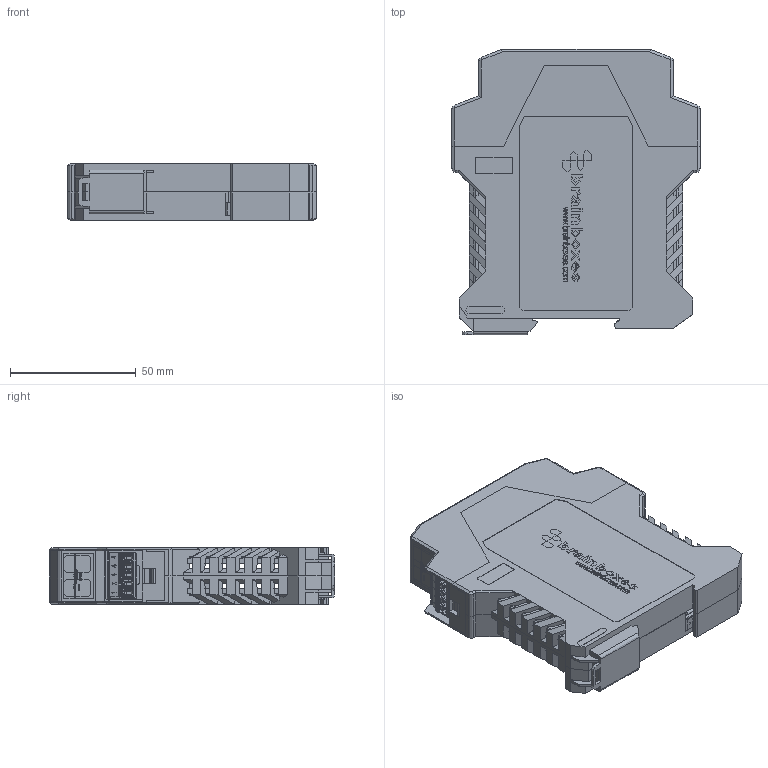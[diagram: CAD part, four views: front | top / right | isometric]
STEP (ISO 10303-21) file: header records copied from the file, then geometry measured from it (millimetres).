
FILE_DESCRIPTION(('STEP AP214'),'1');
FILE_NAME('ES-551 Cased 3D Step.step','2020-12-23T13:07:07',(' '),(' '),'Spatial InterOp 3D','XD3DPlugin XRACreate',' ');
FILE_SCHEMA(('automotive_design'));
Length unit declared in the file: millimetre
Products named in the file (56): Submodel-Input_S\50HEA4X2.xtd; 50HEA4X2; Submodel-50HEA4X2_part_simplified_H100MIL2X4; DesignRootModel; Submodel-Input_S\50HEA4X1_0.xtd; 50HEA4X1_0; Submodel-50HEA4X1_part_simplified_H100MIL1X4; Submodel-Input_S\SMD_ELEC_D.xtd; SMD_ELEC_D; Submodel-7547UF50V_part_simplified_SMD_ELEC_D; Submodel-Input_S\00MAGJACKILED.xtd; 00MAGJACKILED; Submodel-00MAGJACKILED_part_simplified_MAGJACK_LEDS; Submodel-Input_S\10NKE0303SC.xtd; 10NKE0303SC; Submodel-10NKE0303SC_part_simplified_SIP4; Submodel-Input_S\82HEA3MM5TBX5_R_GREY_0.xtd; 82HEA3MM5TBX5_R_GREY_0; Submodel-82HEA3MM5TBX5_R_YELLOW_part_simplified_TBX5_RIGHT; Submodel-Input_S\82HEA3MM5TBX5_L_BLACK.xtd; 82HEA3MM5TBX5_L_BLACK; Submodel-82HEA3MM5TBX5_L_BLACK_part_simplified_TBX5_LEFT; Submodel-Input_S\6610UH5A5.xtd; 6610UH5A5; Submodel-6610UH5A5_part_simplified_SRR1260; Submodel-Input_S\40SMTBUTTON_0.xtd; 40SMTBUTTON_0; Submodel-40SMTBUTTON_part_simplified_SMTBUTTON; Submodel-Input_S\SMC.xtd; SMC; Submodel-55TZ1K5SMC36V_part_simplified_SMC; uid__9223372036854781195; Submodel-AssyDefn_101; BrainboxesLogo.step; Submodel-AssyDefn_100; EDCase2Way.sat; Submodel-AssyDefn_99; 82PLUG3MM5_X5_1_5_BLCK.sat; Submodel-AssyDefn_98; 82BLANKFILLER.sat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
Assembly tree (62 placements, depth 5):
  ES-551 Cased 3D Step
    DesignRootModel
      Submodel-50HEA4X2_part_simplified_H100MIL2X4  x2
        Submodel-Input_S\50HEA4X2.xtd
          50HEA4X2
      Submodel-50HEA4X1_part_simplified_H100MIL1X4
        Submodel-Input_S\50HEA4X1_0.xtd
          50HEA4X1_0
      Submodel-7547UF50V_part_simplified_SMD_ELEC_D
        Submodel-Input_S\SMD_ELEC_D.xtd
          SMD_ELEC_D
      Submodel-00MAGJACKILED_part_simplified_MAGJACK_LEDS
        Submodel-Input_S\00MAGJACKILED.xtd
          00MAGJACKILED
      Submodel-10NKE0303SC_part_simplified_SIP4
        Submodel-Input_S\10NKE0303SC.xtd
          10NKE0303SC
      Submodel-82HEA3MM5TBX5_R_YELLOW_part_simplified_TBX5_RIGHT
        Submodel-Input_S\82HEA3MM5TBX5_R_GREY_0.xtd
          82HEA3MM5TBX5_R_GREY_0
      Submodel-82HEA3MM5TBX5_L_BLACK_part_simplified_TBX5_LEFT
        Submodel-Input_S\82HEA3MM5TBX5_L_BLACK.xtd
          82HEA3MM5TBX5_L_BLACK
      Submodel-6610UH5A5_part_simplified_SRR1260
        Submodel-Input_S\6610UH5A5.xtd
          6610UH5A5
      Submodel-40SMTBUTTON_part_simplified_SMTBUTTON
        Submodel-Input_S\40SMTBUTTON_0.xtd
          40SMTBUTTON_0
      Submodel-55TZ1K5SMC36V_part_simplified_SMC  x3
        Submodel-Input_S\SMC.xtd
          SMC
      uid__9223372036854781195
      Submodel-AssyDefn_101  x2
        BrainboxesLogo.step
      Submodel-AssyDefn_100
        EDCase2Way.sat
      Submodel-AssyDefn_99  x2
        82PLUG3MM5_X5_1_5_BLCK.sat
      Submodel-AssyDefn_98  x2
        82BLANKFILLER.sat
      Submodel-DATUM_2441444698_part_DATUM
        Submodel-noModelForPart_DATUM_2441444698
          placementOutline
      Submodel-55LEDRAGREEN_part_LEDRA
        Submodel-ImportedPartModels\LEDX1BLOCK_RESET.STEP
          LEDX1BLOCK_RESET.xtd
      Submodel-TOOLINGHOLE_1478226124_part_TOOLINGHOLE  x2
        Submodel-noModelForPart_TOOLINGHOLE_1478226124
          placementOutline
      Submodel-REJECTMARK_3219705766_part_REJECTMARK
        Submodel-noModelForPart_REJECTMARK_3219705766
          placementOutline
      Submodel-CHASSISPINS_566188278_part_CHASSISPINS
        Submodel-noModelForPart_CHASSISPINS_566188278
          placementOutline
Bounding box: 99 x 113.64 x 22.6 mm (x, y, z)
Volume: 91398.3 mm3; surface area: 123642 mm2
Topology: 254 solids, 254 shells, 14749 faces, 39926 edges, 26008 vertices
Faces by surface type: plane 11526, cylinder 2190, bspline 639, torus 192, cone 183, sphere 19
Full cylindrical faces by diameter (mm): 0.6 x2, 1 x1, 3.81 x1
Entity records: 484764 total; most frequent: CARTESIAN_POINT 81878, ORIENTED_EDGE 64638, DIRECTION 59939, EDGE_CURVE 32319, LINE 26467, VECTOR 26467, VERTEX_POINT 21015, AXIS2_PLACEMENT_3D 16736
